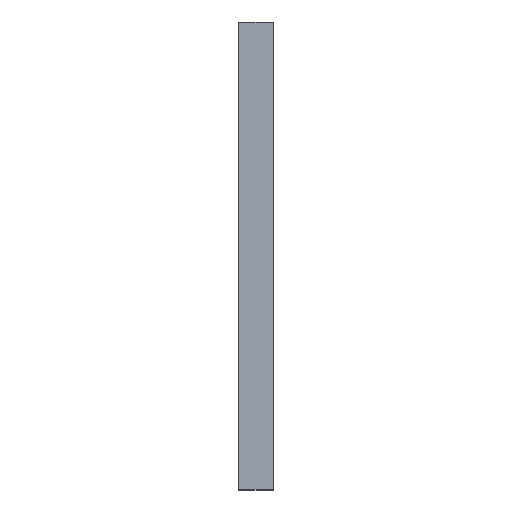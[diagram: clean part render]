
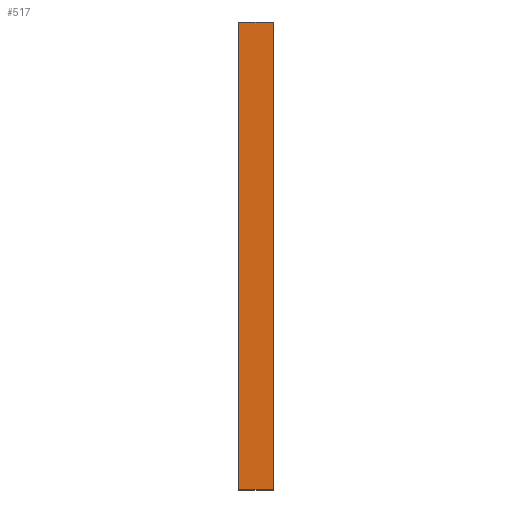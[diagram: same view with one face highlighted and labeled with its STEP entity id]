
A CAD part, top view. The second image highlights one B-rep face of the part: STEP entity #517.
In plain terms, the highlighted planar face has unit normal (0, 0, 1).
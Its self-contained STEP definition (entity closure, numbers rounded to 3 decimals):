
#72 = PLANE('',#73);
#73 = AXIS2_PLACEMENT_3D('',#74,#75,#76);
#74 = CARTESIAN_POINT('',(650.,1050.,1039.));
#75 = DIRECTION('',(0.,1.,0.));
#76 = DIRECTION('',(0.,-0.,1.));
#126 = PLANE('',#127);
#127 = AXIS2_PLACEMENT_3D('',#128,#129,#130);
#128 = CARTESIAN_POINT('',(650.,-1050.,1039.));
#129 = DIRECTION('',(0.,1.,0.));
#130 = DIRECTION('',(0.,-0.,1.));
#409 = PLANE('',#410);
#410 = AXIS2_PLACEMENT_3D('',#411,#412,#413);
#411 = CARTESIAN_POINT('',(573.,-1050.,1108.4));
#412 = DIRECTION('',(1.,0.,0.));
#413 = DIRECTION('',(0.,0.,1.));
#447 = VERTEX_POINT('',#448);
#448 = CARTESIAN_POINT('',(573.,1050.,1120.));
#469 = EDGE_CURVE('',#470,#447,#472,.T.);
#470 = VERTEX_POINT('',#471);
#471 = CARTESIAN_POINT('',(573.,-1050.,1120.));
#472 = SURFACE_CURVE('',#473,(#477,#484),.PCURVE_S1.);
#473 = LINE('',#474,#475);
#474 = CARTESIAN_POINT('',(573.,-1050.,1120.));
#475 = VECTOR('',#476,1.);
#476 = DIRECTION('',(0.,1.,0.));
#477 = PCURVE('',#409,#478);
#478 = DEFINITIONAL_REPRESENTATION('',(#479),#483);
#479 = LINE('',#480,#481);
#480 = CARTESIAN_POINT('',(11.6,0.));
#481 = VECTOR('',#482,1.);
#482 = DIRECTION('',(0.,-1.));
#483 = ( GEOMETRIC_REPRESENTATION_CONTEXT(2) 
PARAMETRIC_REPRESENTATION_CONTEXT() REPRESENTATION_CONTEXT('2D SPACE',''
  ) );
#484 = PCURVE('',#485,#490);
#485 = PLANE('',#486);
#486 = AXIS2_PLACEMENT_3D('',#487,#488,#489);
#487 = CARTESIAN_POINT('',(573.,-1050.,1120.));
#488 = DIRECTION('',(0.,0.,-1.));
#489 = DIRECTION('',(1.,0.,0.));
#490 = DEFINITIONAL_REPRESENTATION('',(#491),#495);
#491 = LINE('',#492,#493);
#492 = CARTESIAN_POINT('',(0.,0.));
#493 = VECTOR('',#494,1.);
#494 = DIRECTION('',(0.,-1.));
#495 = ( GEOMETRIC_REPRESENTATION_CONTEXT(2) 
PARAMETRIC_REPRESENTATION_CONTEXT() REPRESENTATION_CONTEXT('2D SPACE',''
  ) );
#517 = ADVANCED_FACE('',(#518),#485,.F.);
#518 = FACE_BOUND('',#519,.F.);
#519 = EDGE_LOOP('',(#520,#521,#544,#572));
#520 = ORIENTED_EDGE('',*,*,#469,.T.);
#521 = ORIENTED_EDGE('',*,*,#522,.T.);
#522 = EDGE_CURVE('',#447,#523,#525,.T.);
#523 = VERTEX_POINT('',#524);
#524 = CARTESIAN_POINT('',(727.,1050.,1120.));
#525 = SURFACE_CURVE('',#526,(#530,#537),.PCURVE_S1.);
#526 = LINE('',#527,#528);
#527 = CARTESIAN_POINT('',(573.,1050.,1120.));
#528 = VECTOR('',#529,1.);
#529 = DIRECTION('',(1.,0.,0.));
#530 = PCURVE('',#485,#531);
#531 = DEFINITIONAL_REPRESENTATION('',(#532),#536);
#532 = LINE('',#533,#534);
#533 = CARTESIAN_POINT('',(0.,-2100.));
#534 = VECTOR('',#535,1.);
#535 = DIRECTION('',(1.,0.));
#536 = ( GEOMETRIC_REPRESENTATION_CONTEXT(2) 
PARAMETRIC_REPRESENTATION_CONTEXT() REPRESENTATION_CONTEXT('2D SPACE',''
  ) );
#537 = PCURVE('',#72,#538);
#538 = DEFINITIONAL_REPRESENTATION('',(#539),#543);
#539 = LINE('',#540,#541);
#540 = CARTESIAN_POINT('',(81.,-77.));
#541 = VECTOR('',#542,1.);
#542 = DIRECTION('',(0.,1.));
#543 = ( GEOMETRIC_REPRESENTATION_CONTEXT(2) 
PARAMETRIC_REPRESENTATION_CONTEXT() REPRESENTATION_CONTEXT('2D SPACE',''
  ) );
#544 = ORIENTED_EDGE('',*,*,#545,.F.);
#545 = EDGE_CURVE('',#546,#523,#548,.T.);
#546 = VERTEX_POINT('',#547);
#547 = CARTESIAN_POINT('',(727.,-1050.,1120.));
#548 = SURFACE_CURVE('',#549,(#553,#560),.PCURVE_S1.);
#549 = LINE('',#550,#551);
#550 = CARTESIAN_POINT('',(727.,-1050.,1120.));
#551 = VECTOR('',#552,1.);
#552 = DIRECTION('',(0.,1.,0.));
#553 = PCURVE('',#485,#554);
#554 = DEFINITIONAL_REPRESENTATION('',(#555),#559);
#555 = LINE('',#556,#557);
#556 = CARTESIAN_POINT('',(154.,0.));
#557 = VECTOR('',#558,1.);
#558 = DIRECTION('',(0.,-1.));
#559 = ( GEOMETRIC_REPRESENTATION_CONTEXT(2) 
PARAMETRIC_REPRESENTATION_CONTEXT() REPRESENTATION_CONTEXT('2D SPACE',''
  ) );
#560 = PCURVE('',#561,#566);
#561 = PLANE('',#562);
#562 = AXIS2_PLACEMENT_3D('',#563,#564,#565);
#563 = CARTESIAN_POINT('',(727.,-1050.,1120.));
#564 = DIRECTION('',(-1.,0.,0.));
#565 = DIRECTION('',(0.,0.,-1.));
#566 = DEFINITIONAL_REPRESENTATION('',(#567),#571);
#567 = LINE('',#568,#569);
#568 = CARTESIAN_POINT('',(0.,-0.));
#569 = VECTOR('',#570,1.);
#570 = DIRECTION('',(0.,-1.));
#571 = ( GEOMETRIC_REPRESENTATION_CONTEXT(2) 
PARAMETRIC_REPRESENTATION_CONTEXT() REPRESENTATION_CONTEXT('2D SPACE',''
  ) );
#572 = ORIENTED_EDGE('',*,*,#573,.F.);
#573 = EDGE_CURVE('',#470,#546,#574,.T.);
#574 = SURFACE_CURVE('',#575,(#579,#586),.PCURVE_S1.);
#575 = LINE('',#576,#577);
#576 = CARTESIAN_POINT('',(573.,-1050.,1120.));
#577 = VECTOR('',#578,1.);
#578 = DIRECTION('',(1.,0.,0.));
#579 = PCURVE('',#485,#580);
#580 = DEFINITIONAL_REPRESENTATION('',(#581),#585);
#581 = LINE('',#582,#583);
#582 = CARTESIAN_POINT('',(0.,0.));
#583 = VECTOR('',#584,1.);
#584 = DIRECTION('',(1.,0.));
#585 = ( GEOMETRIC_REPRESENTATION_CONTEXT(2) 
PARAMETRIC_REPRESENTATION_CONTEXT() REPRESENTATION_CONTEXT('2D SPACE',''
  ) );
#586 = PCURVE('',#126,#587);
#587 = DEFINITIONAL_REPRESENTATION('',(#588),#592);
#588 = LINE('',#589,#590);
#589 = CARTESIAN_POINT('',(81.,-77.));
#590 = VECTOR('',#591,1.);
#591 = DIRECTION('',(0.,1.));
#592 = ( GEOMETRIC_REPRESENTATION_CONTEXT(2) 
PARAMETRIC_REPRESENTATION_CONTEXT() REPRESENTATION_CONTEXT('2D SPACE',''
  ) );
